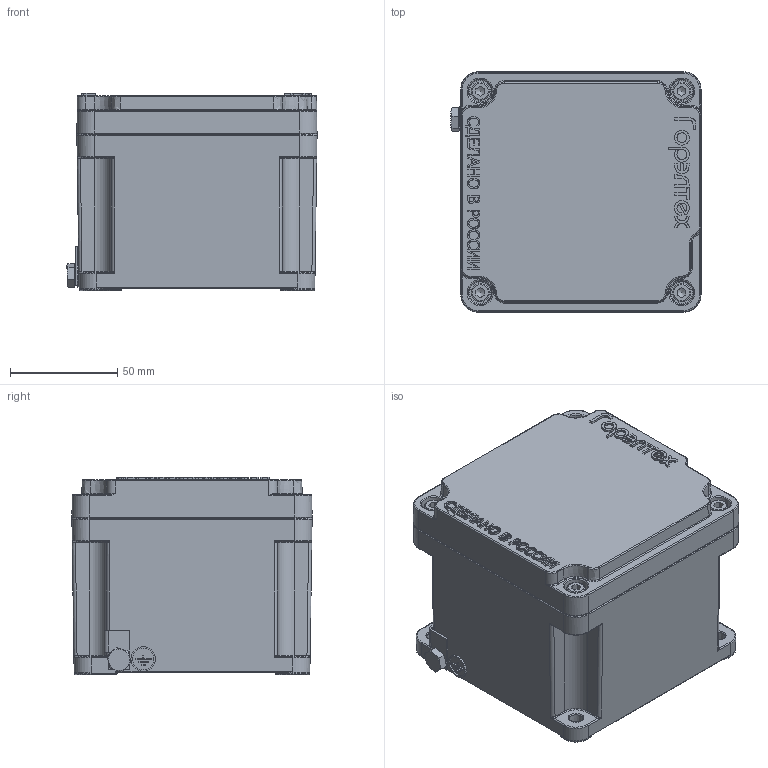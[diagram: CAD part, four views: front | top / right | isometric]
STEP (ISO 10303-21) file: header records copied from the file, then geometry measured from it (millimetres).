
FILE_DESCRIPTION((''),'2;1');
FILE_NAME('C:\WORKS\ТЕХ.ЗАДАНИЯ\56367(ксрв111109 обнов)\КСРВ111109_M1.stp','2020-08-03T10:08:38',('N.M.Ivanov'),(''),'Autodesk Inventor 2012','Autodesk Inventor 2012','');
FILE_SCHEMA(('AUTOMOTIVE_DESIGN { 1 0 10303 214 1 1 1 1 }'));
Length unit declared in the file: millimetre
Products named in the file (1): КСРВ111109_M1
Bounding box: 116.7 x 112.08 x 92 mm (x, y, z)
Surface area: 67317.2 mm2 (no closed solid volume)
Topology: 0 solids, 12 shells, 672 faces, 1847 edges, 1164 vertices
Faces by surface type: plane 260, bspline 231, cylinder 108, torus 43, cone 30
Full cylindrical faces by diameter (mm): 8.5 x1, 8.7 x1, 10 x1, 11.4 x1
Entity records: 24493 total; most frequent: CARTESIAN_POINT 8488, ORIENTED_EDGE 3284, DIRECTION 2613, EDGE_CURVE 1762, VERTEX_POINT 1147, VECTOR 947, LINE 947, AXIS2_PLACEMENT_3D 833
